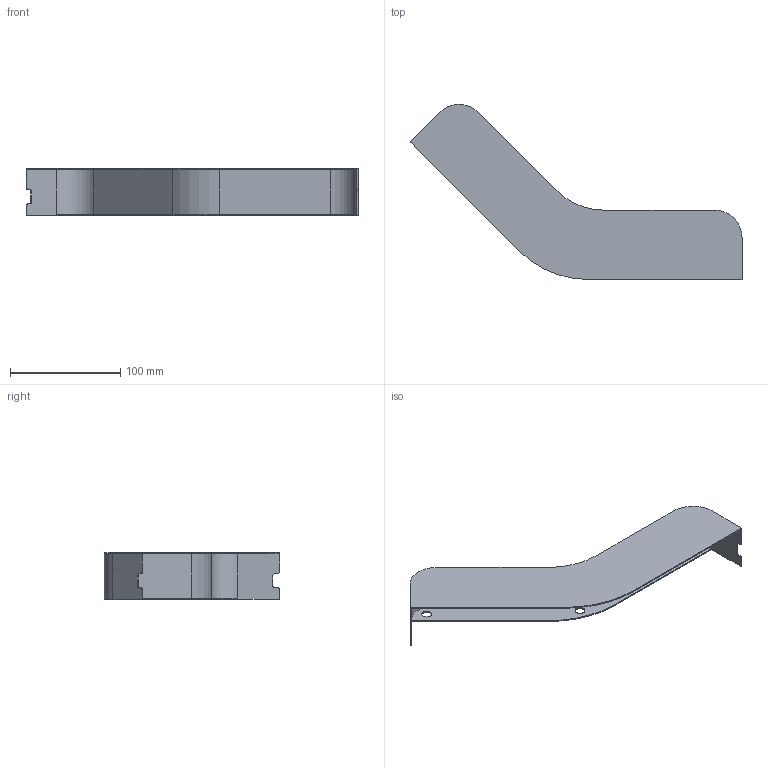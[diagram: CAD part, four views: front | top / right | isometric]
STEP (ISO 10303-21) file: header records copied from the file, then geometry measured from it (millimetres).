
FILE_DESCRIPTION (( 'STEP AP203' ), '1' );
FILE_NAME ('084.830.102.STEP', '2018-03-12T07:33:35', ( '' ), ( '' ), 'SwSTEP 2.0', 'SolidWorks 2016', '' );
FILE_SCHEMA (( 'CONFIG_CONTROL_DESIGN' ));
Length unit declared in the file: millimetre
Products named in the file (1): 084.830.102
Bounding box: 301.37 x 158.93 x 42.5 mm (x, y, z)
Volume: 43665.8 mm3; surface area: 89712.4 mm2
Topology: 3 solids, 3 shells, 62 faces, 168 edges, 112 vertices
Faces by surface type: plane 34, cylinder 28
Entity records: 2053 total; most frequent: DIRECTION 350, CARTESIAN_POINT 343, ORIENTED_EDGE 336, EDGE_CURVE 168, AXIS2_PLACEMENT_3D 119, LINE 112, VECTOR 112, VERTEX_POINT 112
